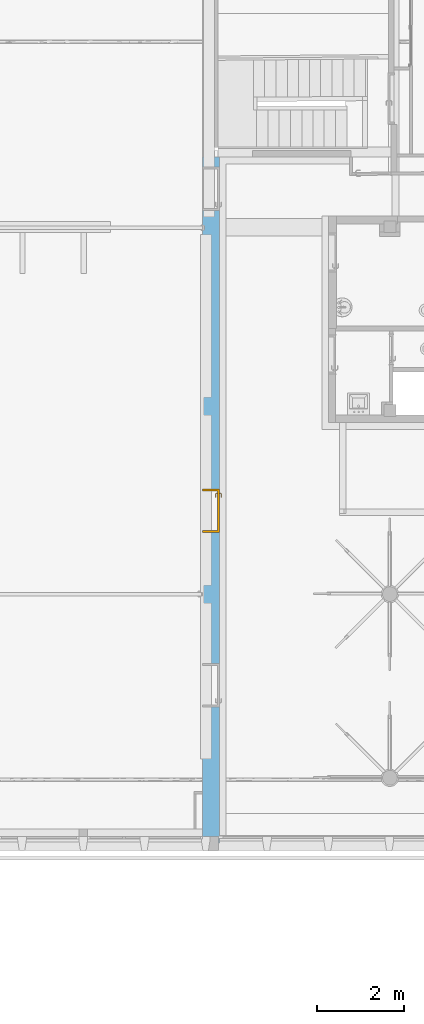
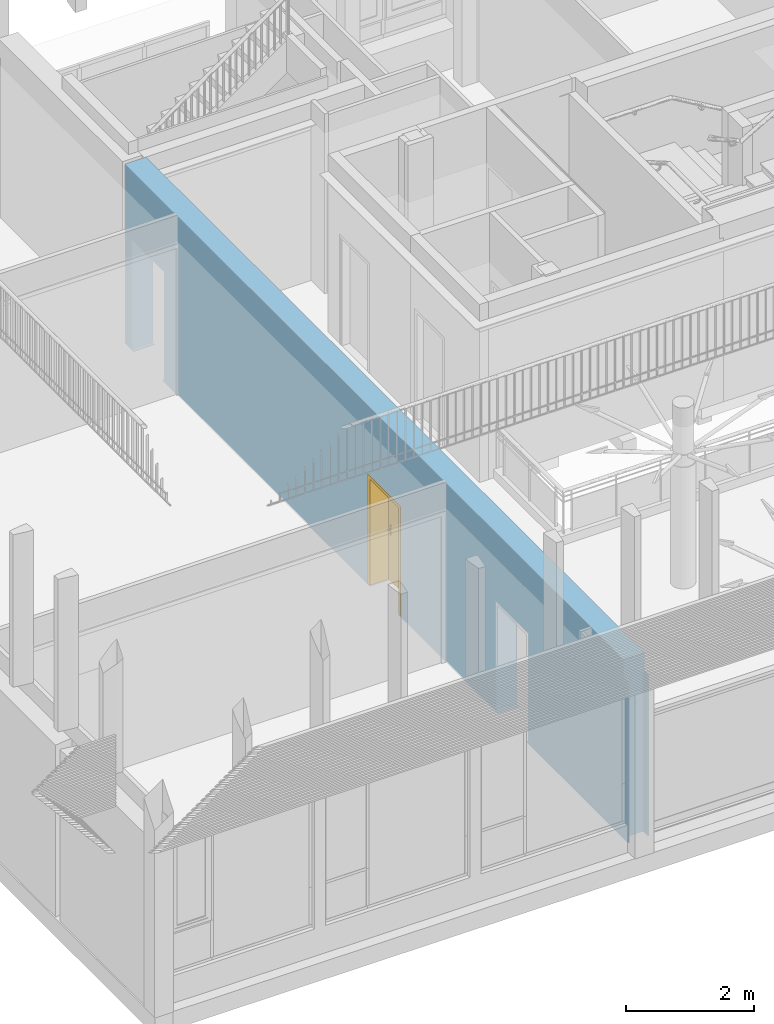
# One storey, part 29 of 65: 1 door, 3 openings, plus 1 element that does not belong to this part.
"""IFC4 building model written with IfcOpenShell, lengths in metres."""

from ifc_helpers import new_model, entity, si_unit, converted_unit, derived_unit, direction, frame, origin, place, context, subcontext, project, spatial, indexed_curve, outline, extrude, polygons, source, transform, mapped, material, material_list, layer, layer_set, constituent, constituent_set, type_object, type_shapes, element, fill, save


model = new_model("IFC4")

# Units and contexts
model_context = context("Model", 3, precision=1e-05, world=origin(), true_north=direction((6.12303176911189e-17, 1.0)))
body_context = subcontext(model_context, "Body", "Model", "MODEL_VIEW")
ifc_project = project(units=[si_unit("LENGTHUNIT", "METRE"), si_unit("AREAUNIT", "SQUARE_METRE"), si_unit("VOLUMEUNIT", "CUBIC_METRE"), converted_unit("PLANEANGLEUNIT", "DEGREE", entity("IfcRatioMeasure", 0.0174532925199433), si_unit("PLANEANGLEUNIT", "RADIAN"), dimensions=[0, 0, 0, 0, 0, 0, 0]), si_unit("MASSUNIT", "GRAM", prefix="KILO"), derived_unit("MASSDENSITYUNIT", [(si_unit("MASSUNIT", "GRAM", prefix="KILO"), 1), (si_unit("LENGTHUNIT", "METRE"), -3)]), derived_unit("MOMENTOFINERTIAUNIT", [(si_unit("LENGTHUNIT", "METRE"), 4)]), si_unit("TIMEUNIT", "SECOND"), si_unit("FREQUENCYUNIT", "HERTZ"), si_unit("THERMODYNAMICTEMPERATUREUNIT", "DEGREE_CELSIUS"), derived_unit("THERMALTRANSMITTANCEUNIT", [(si_unit("MASSUNIT", "GRAM", prefix="KILO"), 1), (si_unit("THERMODYNAMICTEMPERATUREUNIT", "KELVIN"), -1), (si_unit("TIMEUNIT", "SECOND"), -3)]), derived_unit("VOLUMETRICFLOWRATEUNIT", [(si_unit("LENGTHUNIT", "METRE"), 3), (si_unit("TIMEUNIT", "SECOND"), -1)]), si_unit("ELECTRICCURRENTUNIT", "AMPERE"), si_unit("ELECTRICVOLTAGEUNIT", "VOLT"), si_unit("POWERUNIT", "WATT"), si_unit("FORCEUNIT", "NEWTON", prefix="KILO"), si_unit("ILLUMINANCEUNIT", "LUX"), si_unit("LUMINOUSFLUXUNIT", "LUMEN"), si_unit("LUMINOUSINTENSITYUNIT", "CANDELA"), derived_unit("USERDEFINED", [(si_unit("MASSUNIT", "GRAM", prefix="KILO"), -1), (si_unit("LENGTHUNIT", "METRE"), -2), (si_unit("TIMEUNIT", "SECOND"), 3), (si_unit("LUMINOUSFLUXUNIT", "LUMEN"), 1)]), derived_unit("LINEARVELOCITYUNIT", [(si_unit("LENGTHUNIT", "METRE"), 1), (si_unit("TIMEUNIT", "SECOND"), -1)]), si_unit("PRESSUREUNIT", "PASCAL"), derived_unit("USERDEFINED", [(si_unit("LENGTHUNIT", "METRE"), -2), (si_unit("MASSUNIT", "GRAM", prefix="KILO"), 1), (si_unit("TIMEUNIT", "SECOND"), -2)]), derived_unit("LINEARFORCEUNIT", [(si_unit("MASSUNIT", "GRAM", prefix="KILO"), 1), (si_unit("LENGTHUNIT", "METRE"), 1), (si_unit("TIMEUNIT", "SECOND"), -2), (si_unit("LENGTHUNIT", "METRE"), -1)]), derived_unit("PLANARFORCEUNIT", [(si_unit("MASSUNIT", "GRAM", prefix="KILO"), 1), (si_unit("LENGTHUNIT", "METRE"), 1), (si_unit("TIMEUNIT", "SECOND"), -2), (si_unit("LENGTHUNIT", "METRE"), -2)])], contexts=[model_context])

# Site, building, storey
site_placement = place(None, origin())
site = spatial("IfcSite", under=ifc_project, at=site_placement, Name="Default", CompositionType="ELEMENT")
building_placement = place(site_placement, origin())
building = spatial("IfcBuilding", under=site, at=building_placement, Name="HOTEL CONSULAIRE BOULOGNE SUR MER", CompositionType="ELEMENT")
storey_placement = place(building_placement, origin())
storey = spatial("IfcBuildingStorey", under=building, at=storey_placement, Name="Niveau 0", CompositionType="ELEMENT", Elevation=1.31981936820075e-13)

# Wall, openings, door
ifc_material_1 = material(Name="Mur par défaut", Category="Divers")
ifc_layer = layer(ifc_material_1, 0.38, Name="Mur par défaut", Category="Divers")
ifc_layer_set = layer_set([ifc_layer], Name="Mur de base:Générique - Int.380")
wall_type = type_object("IfcWallType", Name="Mur de base:Générique - Int.380", PredefinedType="NOTDEFINED", material=ifc_layer_set)
wall_placement = place(storey_placement, frame((-5.31977317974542, -29.7040671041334, -0.0200000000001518), z_axis=(0.0, 0.0, 1.0), x_axis=(0.0, 1.0, 0.0)))
wall = element("IfcWall", 1, at=wall_placement, inside=storey, type_object=wall_type, material=ifc_layer_set, Name="Mur de base:Générique - Int.380", ObjectType="Mur de base:Générique - Int.380", PredefinedType="NOTDEFINED", context=body_context, shape_type="Tessellation", body=[
    polygons([(0.139999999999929, 0.169207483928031, 3.07112697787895), (0.139999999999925, 0.190000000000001, 3.07112697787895), (0.0, 0.19, 3.07112697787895), (0.0, 0.169207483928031, 3.07112697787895), (7.14209025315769, -0.189999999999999, 1.48048240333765e-16), (4.05599999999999, -0.19, 8.45989944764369e-17), (4.05599999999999, 0.19, 8.45989944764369e-17), (5.6490162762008, 0.190000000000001, 1.18438592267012e-16), (5.72901627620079, 0.190000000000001, 1.18438592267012e-16), (7.14209025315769, 0.190000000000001, 1.48048240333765e-16), (7.09209025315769, 0.19, 0.0200000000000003), (7.09209025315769, -0.190000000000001, 0.0200000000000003), (7.14209025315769, -0.19, 0.0200000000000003), (7.14209025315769, 0.19, 0.0200000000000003), (15.6803636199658, 0.19, 3.25706128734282e-16), (15.6803636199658, -0.19, 3.25706128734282e-16), (15.4057773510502, -0.19, 3.2147617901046e-16), (15.4057773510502, 0.19, 3.2147617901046e-16), (15.4557773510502, -0.19, 0.0200000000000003), (15.4557773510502, 0.19, 0.0200000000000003), (15.4057773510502, 0.19, 0.0200000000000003), (15.4057773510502, -0.19, 0.0200000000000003), (14.5057773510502, -0.19, 3.00326430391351e-16), (8.04209025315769, -0.19, 1.64968039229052e-16), (8.04209025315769, 0.19, 1.64968039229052e-16), (14.0267749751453, 0.190000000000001, 2.91866530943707e-16), (14.1067749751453, 0.19, 2.91866530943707e-16), (14.5057773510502, 0.190000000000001, 3.00326430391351e-16), (4.10599999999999, -0.19, 0.0200000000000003), (4.106, 0.19, 0.0200000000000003), (4.05599999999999, 0.19, 0.0200000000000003), (4.05599999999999, -0.19, 0.0200000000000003), (0.0, 0.19, 0.0), (0.0, 0.169207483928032, 0.0), (4.106, -0.19, 2.095), (7.09209025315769, -0.190000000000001, 2.095), (8.09209025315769, -0.19, 2.095), (8.09209025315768, -0.19, 0.0200000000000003), (8.04209025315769, -0.19, 0.0200000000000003), (14.5057773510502, -0.190000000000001, 0.0200000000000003), (14.4557773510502, -0.190000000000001, 0.0200000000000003), (14.4557773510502, -0.190000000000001, 2.095), (15.4557773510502, -0.19, 2.095), (15.6803636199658, -0.19, 3.40652697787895), (0.139999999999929, -0.19, 3.40652697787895), (0.139999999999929, -0.19, 3.07112697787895), (0.0, -0.19, 3.07112697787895), (0.0, -0.19, 0.0), (0.0460000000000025, -0.19, 0.0), (0.166000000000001, -0.19, 4.22994972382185e-18), (3.15599999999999, -0.19, 6.34492458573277e-17), (3.15599999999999, -0.19, 0.0200000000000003), (3.106, -0.19, 0.0200000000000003), (3.106, -0.19, 2.095), (4.10599999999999, 0.19, 2.095), (3.106, 0.19, 2.095), (3.106, 0.19, 0.0350000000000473), (3.106, 0.19, 0.0200000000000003), (3.15599999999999, 0.19, 0.0200000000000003), (3.15599999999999, 0.19, 6.34492458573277e-17), (1.16997686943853, 0.19, 2.53796983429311e-17), (1.11997686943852, 0.19, 2.11497486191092e-17), (0.316000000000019, 0.19, 8.45989944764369e-18), (0.26700821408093, 0.19, 4.22994972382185e-18), (0.150000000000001, 0.190000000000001, 4.22994972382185e-18), (0.0459999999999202, 0.19, 0.0), (0.139999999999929, 0.190000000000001, 3.40652697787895), (15.6803636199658, 0.19, 3.40652697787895), (15.6803636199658, 0.19, 0.0350000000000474), (15.4557773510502, 0.19, 0.0350000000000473), (15.4557773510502, 0.19, 2.095), (14.4557773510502, 0.19, 2.095), (14.4557773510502, 0.19, 0.0350000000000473), (14.4557773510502, 0.19, 0.0200000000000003), (14.5057773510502, 0.19, 0.0200000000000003), (8.04209025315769, 0.19, 0.0200000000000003), (8.09209025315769, 0.19, 0.0200000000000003), (8.09209025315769, 0.19, 0.0350000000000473), (8.09209025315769, 0.19, 2.095), (7.09209025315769, 0.19, 2.095), (7.09209025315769, 0.19, 0.0350000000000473), (4.106, 0.19, 0.0350000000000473), (14.1067749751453, 0.19, 0.0350000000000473), (14.1067749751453, 0.19, 2.91000000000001), (14.0267749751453, 0.19, 2.91000000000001), (14.0267749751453, 0.19, 0.0350000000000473), (0.150000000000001, -0.170792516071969, 3.07152697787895), (0.150000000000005, -0.170792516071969, 0.0), (0.0, -0.170792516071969, 0.0), (0.0, -0.170792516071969, 3.07112697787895), (0.139999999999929, -0.170792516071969, 3.07112697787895), (0.139999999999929, -0.170792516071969, 3.07152697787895), (0.150000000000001, 0.169207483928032, 0.0), (0.150000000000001, 0.169207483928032, 3.07152697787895), (0.139999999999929, 0.169207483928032, 3.07152697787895), (14.1067749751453, 0.149326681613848, 0.0350000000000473), (14.1067749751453, 0.149326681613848, 2.91000000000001), (14.0267749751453, 0.149326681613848, 2.91000000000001), (14.0267749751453, 0.149326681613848, 0.0350000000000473)], [[[3, 4, 1, 2]], [[12, 13, 14, 11]], [[21, 22, 19, 20]], [[30, 31, 32, 29]], [[59, 58, 53, 52]], [[38, 77, 76, 39]], [[75, 74, 41, 40]], [[86, 99, 96, 83]], [[45, 44, 68, 67]], [[90, 47, 46, 91]], [[5, 6, 7, 8, 9, 10]], [[16, 17, 18, 15]], [[23, 24, 25, 26, 27, 28]], [[55, 35, 54, 56]], [[36, 80, 79, 37]], [[71, 43, 42, 72]], [[85, 84, 97, 98]], [[49, 48, 89, 88, 93, 34, 33, 66, 65, 64, 63, 62, 61, 60, 51, 50]], [[94, 87, 92, 95]], [[34, 4, 3, 33]], [[82, 30, 29, 35, 55]], [[38, 37, 79, 78, 77]], [[70, 20, 19, 43, 71]], [[88, 87, 94, 93]], [[84, 83, 96, 97]], [[48, 47, 90, 89]], [[91, 46, 45, 67, 2, 1, 95, 92]], [[21, 18, 17, 22]], [[76, 25, 24, 39]], [[31, 7, 6, 32]], [[47, 48, 49, 50, 51, 52, 53, 54, 35, 29, 32, 6, 5, 13, 12, 36, 37, 38, 39, 24, 23, 40, 41, 42, 43, 19, 22, 17, 16, 44, 45, 46]], [[94, 95, 1, 4, 34, 93]], [[20, 70, 71, 72, 73, 74, 75, 28, 27, 26, 25, 76, 77, 78, 79, 80, 81, 11, 14, 10, 9, 8, 7, 31, 30, 82, 55, 56, 57, 58, 59, 60, 61, 62, 63, 64, 65, 66, 33, 3, 2, 67, 68, 69, 15, 18, 21], [84, 85, 86, 83]], [[92, 87, 88, 89, 90, 91]], [[98, 97, 96, 99]], [[57, 56, 54, 53, 58]], [[36, 12, 11, 81, 80]], [[73, 72, 42, 41, 74]], [[98, 99, 86, 85]], [[44, 16, 15, 69, 68]], [[75, 40, 23, 28]], [[14, 13, 5, 10]], [[52, 51, 60, 59]]], closed=True),
])
opening_1_placement = place(wall_placement, frame((4.10599999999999, 0.189999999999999, 0.0200000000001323)))
element("IfcOpeningElement", 2, at=opening_1_placement, cuts=wall, Name="Int. Simple:PP0.93x2.04:1", ObjectType="Opening", PredefinedType="OPENING", context=body_context, shape_type="SweptSolid", body=[
    extrude(outline(indexed_curve([(0.0, -9.19159011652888e-31), (2.075, -9.19159011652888e-31), (2.075, 1.0), (0.0, 1.0), (0.0, -9.19159011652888e-31)], self_intersect=False)), frame((0.0, 0.0, 0.0), z_axis=(0.0, -1.0, 0.0), x_axis=(0.0, 0.0, 1.0)), (0.0, 0.0, 1.0), 0.38),
])
opening_2_placement = place(wall_placement, frame((8.09209025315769, 0.19, 0.0200000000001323)))
opening_2 = element("IfcOpeningElement", 3, at=opening_2_placement, cuts=wall, Name="Int. Simple:PP0.93x2.04:1", ObjectType="Opening", PredefinedType="OPENING", context=body_context, shape_type="SweptSolid", body=[
    extrude(outline(indexed_curve([(0.0, 1.0), (0.0, -9.19159011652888e-31), (2.075, -9.19159011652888e-31), (2.075, 1.0), (0.0, 1.0)], self_intersect=False)), frame((0.0, 0.0, 0.0), z_axis=(0.0, -1.0, 0.0), x_axis=(0.0, 0.0, 1.0)), (0.0, 0.0, 1.0), 0.38),
])
opening_3_placement = place(wall_placement, frame((15.4557773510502, 0.189999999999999, 0.0200000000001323)))
element("IfcOpeningElement", 4, at=opening_3_placement, cuts=wall, Name="Int. Simple:PP0.93x2.04:1", ObjectType="Opening", PredefinedType="OPENING", context=body_context, shape_type="SweptSolid", body=[
    extrude(outline(indexed_curve([(0.0, 2.16573425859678e-15), (2.075, 2.16573425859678e-15), (2.075, 1.0), (0.0, 1.0), (0.0, 2.16573425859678e-15)], self_intersect=False)), frame((0.0, 0.0, 0.0), z_axis=(0.0, -1.0, 0.0), x_axis=(0.0, 0.0, 1.0)), (0.0, 0.0, 1.0), 0.38),
])
ifc_material_2 = material(Name="Finition Peinture - Blanc satiné", Category="Peinture")
ifc_constituent_1 = constituent(ifc_material_2, Name="Finition Peinture - Blanc satiné", Category="Matériaux")
ifc_material_3 = material(Name="Bois - Panneau de porte", Category="Bois")
ifc_constituent_2 = constituent(ifc_material_3, Name="Bois - Panneau de porte", Category="Matériaux")
ifc_material_4 = material(Name="Bois - Cadre de porte", Category="Bois")
ifc_constituent_3 = constituent(ifc_material_4, Name="Bois - Cadre de porte", Category="Matériaux")
ifc_constituent_set = constituent_set(constituents=[ifc_constituent_1, ifc_constituent_2, ifc_constituent_3], Name="MaterialConstituentSet")
ifc_material_list = material_list([ifc_material_4, ifc_material_3, ifc_material_2, ifc_material_4])
door_type = type_object("IfcDoorType", Name="Int. Simple:PP0.93x2.04", OperationType="NOTDEFINED", PredefinedType="DOOR", material=ifc_material_list)
shared_shape = source(origin(), body_context, "Body", "Tessellation", [
    polygons([(0.995000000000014, -0.0050000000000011, 0.870000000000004), (0.995000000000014, -0.0050000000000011, 1.08), (0.985352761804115, -0.0050000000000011, 1.08399601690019), (0.975000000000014, -0.0050000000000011, 1.08535898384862), (0.964647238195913, -0.00500000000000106, 1.08399601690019), (0.955000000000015, -0.00500000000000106, 1.08), (0.955000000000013, -0.00500000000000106, 0.870000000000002), (0.964647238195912, -0.00500000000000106, 0.866003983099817), (0.975000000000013, -0.0050000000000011, 0.86464101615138), (0.985352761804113, -0.0050000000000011, 0.866003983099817), (0.995000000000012, -1.11670672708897e-15, 0.870000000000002), (0.985352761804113, -1.11670672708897e-15, 0.866003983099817), (0.975000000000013, -1.11670672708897e-15, 0.86464101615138), (0.964647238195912, -1.08286712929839e-15, 0.866003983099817), (0.955000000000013, -1.08286712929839e-15, 0.870000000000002), (0.955000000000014, -1.08286712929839e-15, 1.08), (0.964647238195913, -1.08286712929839e-15, 1.08399601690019), (0.975000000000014, -1.11670672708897e-15, 1.08535898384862), (0.985352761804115, -1.11670672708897e-15, 1.08399601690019), (0.995000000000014, -1.11670672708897e-15, 1.08)], [[[1, 2, 3, 4, 5, 6, 7, 8, 9, 10]], [[20, 11, 12, 13, 14, 15, 16, 17, 18, 19]], [[10, 12, 11, 1]], [[9, 13, 12, 10]], [[8, 14, 13, 9]], [[8, 7, 15, 14]], [[15, 7, 6, 16]], [[5, 17, 16, 6]], [[4, 18, 17, 5]], [[3, 19, 18, 4]], [[3, 2, 20, 19]], [[11, 20, 2, 1]]], closed=True),
    polygons([(0.955000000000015, 0.0399999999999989, 1.08), (0.955000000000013, 0.0399999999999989, 0.870000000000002), (0.964647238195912, 0.0399999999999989, 0.866003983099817), (0.975000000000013, 0.0399999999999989, 0.86464101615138), (0.985352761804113, 0.0399999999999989, 0.866003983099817), (0.995000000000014, 0.0399999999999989, 0.870000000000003), (0.995000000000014, 0.0399999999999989, 1.08), (0.985352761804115, 0.0399999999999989, 1.08399601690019), (0.975000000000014, 0.0399999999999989, 1.08535898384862), (0.964647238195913, 0.0399999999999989, 1.08399601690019), (0.955000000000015, 0.0449999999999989, 1.08), (0.964647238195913, 0.0449999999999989, 1.08399601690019), (0.975000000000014, 0.0449999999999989, 1.08535898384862), (0.985352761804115, 0.0449999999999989, 1.08399601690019), (0.995000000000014, 0.0449999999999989, 1.08), (0.995000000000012, 0.0449999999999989, 0.870000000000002), (0.985352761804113, 0.0449999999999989, 0.866003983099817), (0.975000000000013, 0.0449999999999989, 0.86464101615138), (0.964647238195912, 0.0449999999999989, 0.866003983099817), (0.955000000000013, 0.0449999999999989, 0.870000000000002)], [[[6, 7, 8, 9, 10, 1, 2, 3, 4, 5]], [[13, 14, 15, 16, 17, 18, 19, 20, 11, 12]], [[10, 12, 11, 1]], [[9, 13, 12, 10]], [[8, 14, 13, 9]], [[8, 7, 15, 14]], [[16, 15, 7, 6]], [[5, 17, 16, 6]], [[4, 18, 17, 5]], [[3, 19, 18, 4]], [[3, 2, 20, 19]], [[20, 2, 1, 11]]], closed=True),
    polygons([(0.981000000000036, -0.00500000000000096, 1.00699999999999), (0.981000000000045, -0.00500000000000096, 0.992999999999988), (0.977025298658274, -0.00500000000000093, 0.99221955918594), (0.972974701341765, -0.00500000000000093, 0.992219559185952), (0.968999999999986, -0.00500000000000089, 0.993000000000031), (0.968999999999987, -0.00500000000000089, 1.007), (0.972974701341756, -0.00500000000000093, 1.00778044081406), (0.977025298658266, -0.00500000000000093, 1.00778044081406), (0.968999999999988, -0.0276803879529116, 1.007), (0.972974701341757, -0.029326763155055, 1.00778044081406), (0.977025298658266, -0.0310045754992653, 1.00778044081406), (0.981000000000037, -0.0326509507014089, 1.007), (0.968999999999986, -0.0276803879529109, 0.993000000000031), (0.981000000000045, -0.0326509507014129, 0.992999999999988), (0.977025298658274, -0.0310045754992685, 0.99221955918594), (0.972974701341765, -0.0293267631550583, 0.992219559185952), (0.957652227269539, -0.0390281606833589, 1.007), (0.959298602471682, -0.0430028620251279, 1.00778044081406), (0.960976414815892, -0.0470534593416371, 1.00778044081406), (0.962622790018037, -0.0510281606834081, 1.007), (0.957652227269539, -0.0390281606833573, 0.993000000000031), (0.96262279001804, -0.0510281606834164, 0.992999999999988), (0.960976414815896, -0.047053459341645, 0.99221955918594), (0.959298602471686, -0.0430028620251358, 0.992219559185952), (0.874981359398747, -0.0510281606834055, 1.007), (0.874981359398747, -0.0470534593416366, 1.00778044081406), (0.874981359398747, -0.0430028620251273, 1.00778044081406), (0.874981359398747, -0.0390281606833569, 1.00699999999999), (0.874981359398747, -0.0390281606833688, 0.993000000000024), (0.874981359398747, -0.0430028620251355, 0.992219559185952), (0.874981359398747, -0.0470534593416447, 0.99221955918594), (0.874981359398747, -0.0510281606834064, 0.992999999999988), (0.922692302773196, -0.051028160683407, 1.007), (0.917139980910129, -0.045028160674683, 1.0078786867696), (0.916316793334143, -0.039028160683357, 1.007), (0.922692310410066, -0.0510281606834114, 0.992999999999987), (0.917139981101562, -0.0450281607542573, 0.992121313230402), (0.916316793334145, -0.039028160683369, 0.993000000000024)], [[[7, 8, 1, 2, 3, 4, 5, 6]], [[17, 21, 38, 29, 28, 35]], [[1, 8, 11, 12]], [[8, 7, 10, 18, 19, 11]], [[7, 6, 9, 10]], [[13, 9, 6, 5]], [[25, 26, 27, 28, 29, 30, 31, 32]], [[4, 16, 13, 5]], [[4, 3, 15, 23, 24, 16]], [[2, 14, 15, 3]], [[12, 14, 2, 1]], [[12, 11, 19, 20]], [[10, 9, 17, 18]], [[21, 17, 9, 13]], [[13, 16, 24, 21]], [[15, 14, 22, 23]], [[20, 22, 14, 12]], [[34, 26, 33]], [[33, 26, 25]], [[33, 20, 19]], [[18, 35, 34]], [[35, 18, 17]], [[28, 27, 35]], [[34, 27, 26]], [[34, 35, 27]], [[34, 33, 19]], [[18, 34, 19]], [[37, 30, 38]], [[31, 37, 36]], [[24, 38, 21]], [[30, 29, 38]], [[31, 36, 32]], [[36, 23, 22]], [[37, 23, 36]], [[37, 24, 23]], [[37, 38, 24]], [[30, 37, 31]], [[22, 20, 33, 25, 32, 36]]], closed=True),
    polygons([(0.968999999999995, 0.0449999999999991, 0.993000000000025), (0.972974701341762, 0.044999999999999, 0.992219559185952), (0.977025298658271, 0.044999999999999, 0.99221955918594), (0.981000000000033, 0.044999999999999, 0.992999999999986), (0.981000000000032, 0.044999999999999, 1.007), (0.977025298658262, 0.044999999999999, 1.00778044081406), (0.972974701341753, 0.044999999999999, 1.00778044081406), (0.968999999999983, 0.0449999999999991, 1.007), (0.968999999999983, 0.067485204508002, 1.007), (0.968999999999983, 0.067485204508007, 0.993000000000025), (0.981000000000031, 0.0724557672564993, 1.007), (0.977025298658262, 0.0708093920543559, 1.00778044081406), (0.972974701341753, 0.0691315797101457, 1.00778044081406), (0.981000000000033, 0.0724557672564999, 0.992999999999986), (0.972974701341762, 0.0691315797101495, 0.992219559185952), (0.977025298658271, 0.0708093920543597, 0.99221955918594), (0.957514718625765, 0.0789704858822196, 1.007), (0.957514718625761, 0.0789704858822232, 0.993000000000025), (0.962485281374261, 0.0909704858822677, 1.007), (0.960838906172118, 0.0869957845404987, 1.00778044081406), (0.959161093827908, 0.0829451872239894, 1.00778044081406), (0.962485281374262, 0.0909704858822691, 0.992999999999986), (0.959161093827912, 0.0829451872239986, 0.992219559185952), (0.960838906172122, 0.0869957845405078, 0.99221955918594), (0.874954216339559, 0.0789704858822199, 0.993000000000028), (0.874954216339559, 0.078970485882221, 1.007), (0.874954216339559, 0.08294518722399, 1.00778044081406), (0.874954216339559, 0.0869957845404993, 1.00778044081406), (0.874954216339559, 0.0909704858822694, 1.007), (0.874954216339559, 0.0909704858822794, 0.992999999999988), (0.874954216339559, 0.086995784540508, 0.99221955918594), (0.874954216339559, 0.0829451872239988, 0.992219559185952), (0.922554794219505, 0.0909704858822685, 1.007), (0.917057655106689, 0.0849704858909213, 1.0078786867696), (0.916234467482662, 0.0789704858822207, 1.007), (0.922554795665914, 0.0909704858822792, 0.992999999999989), (0.917057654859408, 0.0849704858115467, 0.992121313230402), (0.916234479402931, 0.0789704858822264, 0.993000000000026)], [[[2, 3, 4, 5, 6, 7, 8, 1]], [[18, 17, 35, 26, 25, 38]], [[9, 10, 1, 8]], [[27, 28, 29, 30, 31, 32, 25, 26]], [[7, 13, 9, 8]], [[7, 6, 12, 20, 21, 13]], [[5, 11, 12, 6]], [[11, 5, 4, 14]], [[4, 3, 16, 14]], [[3, 2, 15, 23, 24, 16]], [[2, 1, 10, 15]], [[17, 18, 10, 9]], [[9, 13, 21, 17]], [[11, 19, 20, 12]], [[22, 19, 11, 14]], [[14, 16, 24, 22]], [[15, 10, 18, 23]], [[34, 27, 35]], [[28, 34, 33]], [[21, 35, 17]], [[27, 26, 35]], [[28, 33, 29]], [[33, 20, 19]], [[34, 20, 33]], [[34, 21, 20]], [[34, 35, 21]], [[27, 34, 28]], [[19, 22, 36, 30, 29, 33]], [[37, 31, 36]], [[36, 31, 30]], [[36, 22, 24]], [[23, 38, 37]], [[38, 23, 18]], [[25, 32, 38]], [[37, 32, 31]], [[37, 38, 32]], [[37, 36, 24]], [[23, 37, 24]]], closed=True),
    polygons([(1.03500000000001, 0.04, 2.04), (1.03500000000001, 0.04, 0.0), (0.105000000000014, 0.04, 0.0), (0.105000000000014, 0.04, 2.04), (1.03500000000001, 0.0, 2.04), (0.105000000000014, 0.0, 2.04), (0.105000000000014, 0.0, 0.0), (1.03500000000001, 0.0, 0.0)], [[[3, 4, 1, 2]], [[8, 5, 6, 7]], [[5, 1, 4, 6]], [[6, 4, 3, 7]], [[7, 3, 2, 8]], [[8, 2, 1, 5]]], closed=True),
    polygons([(1.07000000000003, 0.0, 0.0), (1.03500000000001, 0.0, 0.0), (1.03500000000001, 0.040000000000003, 0.0), (1.02000000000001, 0.040000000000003, 0.0), (1.02000000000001, 0.380000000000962, 0.0), (1.07000000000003, 0.380000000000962, 0.0), (1.07000000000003, 0.380000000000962, 2.07500000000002), (1.07000000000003, 0.0, 2.07500000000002), (1.02000000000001, 0.380000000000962, 2.025), (0.120000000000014, 0.380000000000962, 2.025), (0.120000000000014, 0.380000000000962, 3.59657255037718e-24), (0.0699999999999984, 0.380000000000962, 3.88816484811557e-25), (0.0699999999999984, 0.380000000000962, 2.07500000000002), (1.02000000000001, 0.040000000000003, 2.025), (1.03500000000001, 0.040000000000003, 2.04), (0.105000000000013, 0.040000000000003, 2.04), (0.105000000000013, 0.040000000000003, -4.78103047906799e-25), (0.120000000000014, 0.040000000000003, 2.24110802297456e-24), (0.120000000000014, 0.040000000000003, 2.025), (1.03500000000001, 0.0, 2.04), (0.0699999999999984, 0.0, 2.07500000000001), (0.0699999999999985, 0.0, -3.95490158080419e-25), (0.105000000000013, 0.0, -2.84752548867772e-24), (0.105000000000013, 0.0, 2.04)], [[[5, 6, 1, 2, 3, 4]], [[17, 23, 22, 12, 11, 18]], [[19, 10, 9, 14]], [[24, 16, 15, 20]], [[7, 8, 1, 6]], [[11, 10, 19, 18]], [[17, 16, 24, 23]], [[9, 10, 11, 12, 13, 7, 6, 5]], [[9, 5, 4, 14]], [[15, 3, 2, 20]], [[12, 22, 21, 13]], [[19, 14, 4, 3, 15, 16, 17, 18]], [[24, 20, 2, 1, 8, 21, 22, 23]], [[21, 8, 7, 13]]], closed=True),
    polygons([(1.05500000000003, 0.380000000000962, 0.0), (1.05500000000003, 0.385000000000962, 0.0), (1.08500000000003, 0.385000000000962, 0.0), (1.08500000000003, 0.380000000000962, 0.0), (1.08500000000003, 0.380000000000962, 2.09000000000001), (0.0550000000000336, 0.380000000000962, 2.09000000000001), (0.0550000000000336, 0.380000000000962, -9.00794238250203e-25), (0.0850000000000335, 0.380000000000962, -1.80158911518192e-24), (0.0850000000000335, 0.380000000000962, 2.06000000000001), (1.05500000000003, 0.380000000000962, 2.06000000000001), (1.08500000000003, 0.385000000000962, 2.09000000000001), (1.05500000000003, 0.385000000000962, 2.06000000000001), (0.0850000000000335, 0.385000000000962, 2.06000000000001), (0.0850000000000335, 0.385000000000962, -4.34281663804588e-24), (0.0550000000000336, 0.385000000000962, -5.48159974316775e-24), (0.0550000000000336, 0.385000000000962, 2.09000000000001)], [[[2, 3, 4, 1]], [[7, 15, 14, 8]], [[9, 13, 12, 10]], [[9, 10, 1, 4, 5, 6, 7, 8]], [[5, 4, 3, 11]], [[8, 14, 13, 9]], [[12, 13, 14, 15, 16, 11, 3, 2]], [[10, 12, 2, 1]], [[7, 6, 16, 15]], [[6, 5, 11, 16]]], closed=True),
    polygons([(1.05500000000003, -0.00500000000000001, 0.0), (1.05500000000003, 0.0, 0.0), (1.08500000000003, 0.0, 0.0), (1.08500000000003, -0.00500000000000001, 0.0), (0.0850000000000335, -0.00500000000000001, 5.41433564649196e-16), (0.0550000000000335, -0.00500000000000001, 5.41433564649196e-16), (0.0550000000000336, 0.0, 5.41433564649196e-16), (0.0850000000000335, 0.0, 5.41433564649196e-16), (1.08500000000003, -0.00500000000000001, 2.09000000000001), (0.0550000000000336, -0.00500000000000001, 2.09000000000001), (0.0850000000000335, -0.00500000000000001, 2.06000000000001), (1.05500000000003, -0.00500000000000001, 2.06000000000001), (1.08500000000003, 0.0, 2.09000000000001), (1.05500000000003, 0.0, 2.06000000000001), (0.0850000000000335, 0.0, 2.06000000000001), (0.0550000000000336, 0.0, 2.09000000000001)], [[[2, 3, 4, 1]], [[6, 7, 8, 5]], [[15, 14, 12, 11]], [[11, 12, 1, 4, 9, 10, 6, 5]], [[13, 9, 4, 3]], [[5, 8, 15, 11]], [[14, 15, 8, 7, 16, 13, 3, 2]], [[12, 14, 2, 1]], [[7, 6, 10, 16]], [[10, 9, 13, 16]]], closed=True),
])
type_shapes(door_type, [shared_shape])
door_placement = place(opening_2_placement, frame((-1.07000000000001, -0.380000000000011, 0.0)))
door = element("IfcDoor", 5, at=door_placement, inside=storey, type_object=door_type, material=ifc_constituent_set, Name="Int. Simple:PP0.93x2.04", ObjectType="Int. Simple:PP0.93x2.04", OperationType="NOTDEFINED", OverallHeight=2.075, OverallWidth=1.0, PredefinedType="DOOR", context=body_context, shape_type="MappedRepresentation", body=[
    mapped(shared_shape, transform((0.0, 0.0, 0.0), scale=1.0)),
])
fill(opening_2, door)

save(model, "model.ifc")
